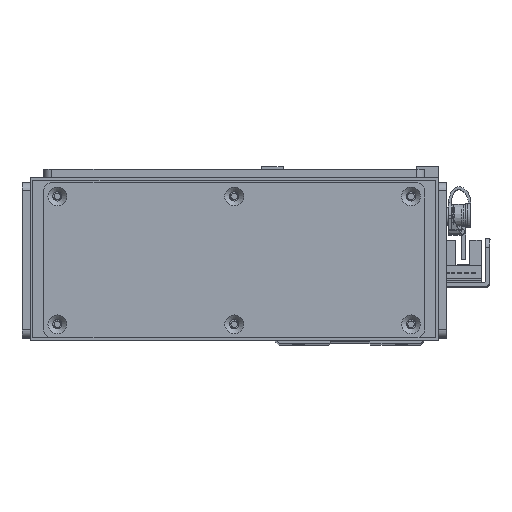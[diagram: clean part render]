
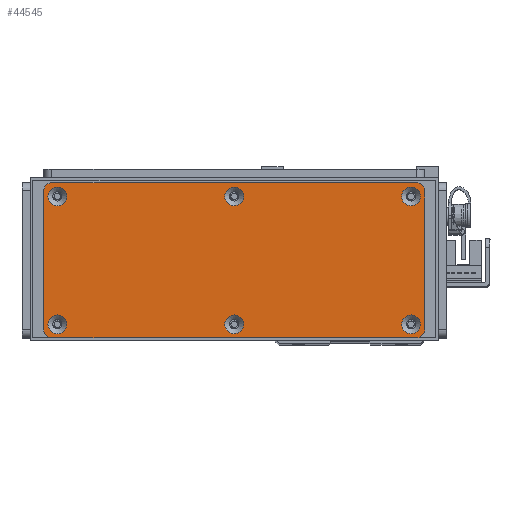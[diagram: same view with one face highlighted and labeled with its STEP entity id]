
A CAD part, top view. The second image highlights one B-rep face of the part: STEP entity #44545.
In plain terms, the highlighted planar face has unit normal (0, 0, 1).
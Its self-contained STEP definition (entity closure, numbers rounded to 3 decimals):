
#1493=FACE_BOUND('',#7719,.T.);
#1494=FACE_BOUND('',#7720,.T.);
#1495=FACE_BOUND('',#7721,.T.);
#1496=FACE_BOUND('',#7722,.T.);
#1497=FACE_BOUND('',#7723,.T.);
#1498=FACE_BOUND('',#7724,.T.);
#3068=PLANE('',#48126);
#5133=FACE_OUTER_BOUND('',#7718,.T.);
#7718=EDGE_LOOP('',(#40248,#40249,#40250,#40251,#40252,#40253,#40254,#40255));
#7719=EDGE_LOOP('',(#40256));
#7720=EDGE_LOOP('',(#40257));
#7721=EDGE_LOOP('',(#40258));
#7722=EDGE_LOOP('',(#40259));
#7723=EDGE_LOOP('',(#40260));
#7724=EDGE_LOOP('',(#40261));
#12540=LINE('',#73059,#17387);
#12543=LINE('',#73067,#17390);
#12546=LINE('',#73075,#17393);
#12549=LINE('',#73082,#17396);
#17387=VECTOR('',#58847,10.);
#17390=VECTOR('',#58856,10.);
#17393=VECTOR('',#58865,10.);
#17396=VECTOR('',#58874,10.);
#18769=CIRCLE('',#48080,3.45);
#18772=CIRCLE('',#48085,3.45);
#18775=CIRCLE('',#48090,3.45);
#18778=CIRCLE('',#48095,3.45);
#18781=CIRCLE('',#48100,3.45);
#18784=CIRCLE('',#48105,3.45);
#18791=CIRCLE('',#48115,3.);
#18792=CIRCLE('',#48118,3.);
#18793=CIRCLE('',#48121,3.);
#18794=CIRCLE('',#48124,3.);
#22639=VERTEX_POINT('',#72975);
#22642=VERTEX_POINT('',#72985);
#22645=VERTEX_POINT('',#72995);
#22648=VERTEX_POINT('',#73005);
#22651=VERTEX_POINT('',#73015);
#22654=VERTEX_POINT('',#73025);
#22665=VERTEX_POINT('',#73052);
#22666=VERTEX_POINT('',#73054);
#22667=VERTEX_POINT('',#73058);
#22668=VERTEX_POINT('',#73062);
#22669=VERTEX_POINT('',#73066);
#22670=VERTEX_POINT('',#73070);
#22671=VERTEX_POINT('',#73074);
#22672=VERTEX_POINT('',#73078);
#28574=EDGE_CURVE('',#22639,#22639,#18769,.T.);
#28579=EDGE_CURVE('',#22642,#22642,#18772,.T.);
#28584=EDGE_CURVE('',#22645,#22645,#18775,.T.);
#28589=EDGE_CURVE('',#22648,#22648,#18778,.T.);
#28594=EDGE_CURVE('',#22651,#22651,#18781,.T.);
#28599=EDGE_CURVE('',#22654,#22654,#18784,.T.);
#28613=EDGE_CURVE('',#22666,#22665,#18791,.T.);
#28615=EDGE_CURVE('',#22667,#22666,#12540,.T.);
#28617=EDGE_CURVE('',#22668,#22667,#18792,.T.);
#28619=EDGE_CURVE('',#22669,#22668,#12543,.T.);
#28621=EDGE_CURVE('',#22670,#22669,#18793,.T.);
#28623=EDGE_CURVE('',#22671,#22670,#12546,.T.);
#28625=EDGE_CURVE('',#22672,#22671,#18794,.T.);
#28627=EDGE_CURVE('',#22665,#22672,#12549,.T.);
#40248=ORIENTED_EDGE('',*,*,#28627,.T.);
#40249=ORIENTED_EDGE('',*,*,#28625,.T.);
#40250=ORIENTED_EDGE('',*,*,#28623,.T.);
#40251=ORIENTED_EDGE('',*,*,#28621,.T.);
#40252=ORIENTED_EDGE('',*,*,#28619,.T.);
#40253=ORIENTED_EDGE('',*,*,#28617,.T.);
#40254=ORIENTED_EDGE('',*,*,#28615,.T.);
#40255=ORIENTED_EDGE('',*,*,#28613,.T.);
#40256=ORIENTED_EDGE('',*,*,#28574,.T.);
#40257=ORIENTED_EDGE('',*,*,#28579,.T.);
#40258=ORIENTED_EDGE('',*,*,#28584,.T.);
#40259=ORIENTED_EDGE('',*,*,#28589,.T.);
#40260=ORIENTED_EDGE('',*,*,#28594,.T.);
#40261=ORIENTED_EDGE('',*,*,#28599,.T.);
#44545=ADVANCED_FACE('',(#5133,#1493,#1494,#1495,#1496,#1497,#1498),#3068,
 .T.);
#48080=AXIS2_PLACEMENT_3D('',#72976,#58755,#58756);
#48085=AXIS2_PLACEMENT_3D('',#72986,#58767,#58768);
#48090=AXIS2_PLACEMENT_3D('',#72996,#58779,#58780);
#48095=AXIS2_PLACEMENT_3D('',#73006,#58791,#58792);
#48100=AXIS2_PLACEMENT_3D('',#73016,#58803,#58804);
#48105=AXIS2_PLACEMENT_3D('',#73026,#58815,#58816);
#48115=AXIS2_PLACEMENT_3D('',#73055,#58842,#58843);
#48118=AXIS2_PLACEMENT_3D('',#73063,#58851,#58852);
#48121=AXIS2_PLACEMENT_3D('',#73071,#58860,#58861);
#48124=AXIS2_PLACEMENT_3D('',#73079,#58869,#58870);
#48126=AXIS2_PLACEMENT_3D('',#73083,#58875,#58876);
#58755=DIRECTION('center_axis',(0.,0.,-1.));
#58756=DIRECTION('ref_axis',(1.,0.,0.));
#58767=DIRECTION('center_axis',(0.,0.,-1.));
#58768=DIRECTION('ref_axis',(1.,0.,0.));
#58779=DIRECTION('center_axis',(0.,0.,-1.));
#58780=DIRECTION('ref_axis',(1.,0.,0.));
#58791=DIRECTION('center_axis',(0.,0.,-1.));
#58792=DIRECTION('ref_axis',(1.,0.,0.));
#58803=DIRECTION('center_axis',(0.,0.,-1.));
#58804=DIRECTION('ref_axis',(1.,0.,0.));
#58815=DIRECTION('center_axis',(0.,0.,-1.));
#58816=DIRECTION('ref_axis',(1.,0.,0.));
#58842=DIRECTION('center_axis',(0.,0.,1.));
#58843=DIRECTION('ref_axis',(0.,1.,0.));
#58847=DIRECTION('',(-1.,0.,0.));
#58851=DIRECTION('center_axis',(0.,0.,1.));
#58852=DIRECTION('ref_axis',(1.,0.,0.));
#58856=DIRECTION('',(0.,1.,0.));
#58860=DIRECTION('center_axis',(0.,0.,1.));
#58861=DIRECTION('ref_axis',(0.,-1.,0.));
#58865=DIRECTION('',(1.,0.,0.));
#58869=DIRECTION('center_axis',(0.,0.,1.));
#58870=DIRECTION('ref_axis',(-1.,0.,0.));
#58874=DIRECTION('',(0.,-1.,0.));
#58875=DIRECTION('center_axis',(0.,0.,1.));
#58876=DIRECTION('ref_axis',(1.,0.,0.));
#72975=CARTESIAN_POINT('',(-3.45,23.5,1.5));
#72976=CARTESIAN_POINT('Origin',(0.,23.5,1.5));
#72985=CARTESIAN_POINT('',(61.55,-23.5,1.5));
#72986=CARTESIAN_POINT('Origin',(65.,-23.5,1.5));
#72995=CARTESIAN_POINT('',(-68.45,23.5,1.5));
#72996=CARTESIAN_POINT('Origin',(-65.,23.5,1.5));
#73005=CARTESIAN_POINT('',(61.55,23.5,1.5));
#73006=CARTESIAN_POINT('Origin',(65.,23.5,1.5));
#73015=CARTESIAN_POINT('',(-68.45,-23.5,1.5));
#73016=CARTESIAN_POINT('Origin',(-65.,-23.5,1.5));
#73025=CARTESIAN_POINT('',(-3.45,-23.5,1.5));
#73026=CARTESIAN_POINT('Origin',(0.,-23.5,1.5));
#73052=CARTESIAN_POINT('',(-70.,25.5,1.5));
#73054=CARTESIAN_POINT('',(-67.,28.5,1.5));
#73055=CARTESIAN_POINT('Origin',(-67.,25.5,1.5));
#73058=CARTESIAN_POINT('',(67.,28.5,1.5));
#73059=CARTESIAN_POINT('',(67.,28.5,1.5));
#73062=CARTESIAN_POINT('',(70.,25.5,1.5));
#73063=CARTESIAN_POINT('Origin',(67.,25.5,1.5));
#73066=CARTESIAN_POINT('',(70.,-25.5,1.5));
#73067=CARTESIAN_POINT('',(70.,-25.5,1.5));
#73070=CARTESIAN_POINT('',(67.,-28.5,1.5));
#73071=CARTESIAN_POINT('Origin',(67.,-25.5,1.5));
#73074=CARTESIAN_POINT('',(-67.,-28.5,1.5));
#73075=CARTESIAN_POINT('',(-67.,-28.5,1.5));
#73078=CARTESIAN_POINT('',(-70.,-25.5,1.5));
#73079=CARTESIAN_POINT('Origin',(-67.,-25.5,1.5));
#73082=CARTESIAN_POINT('',(-70.,25.5,1.5));
#73083=CARTESIAN_POINT('Origin',(0.,0.,
1.5));
